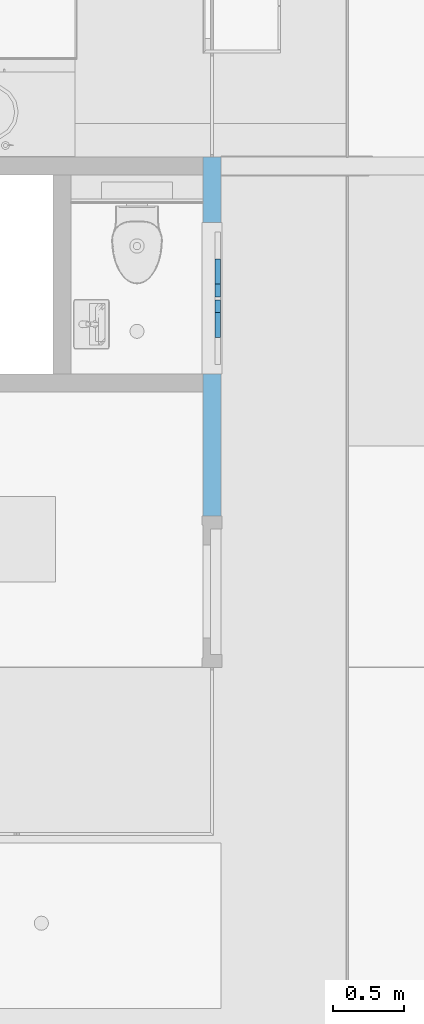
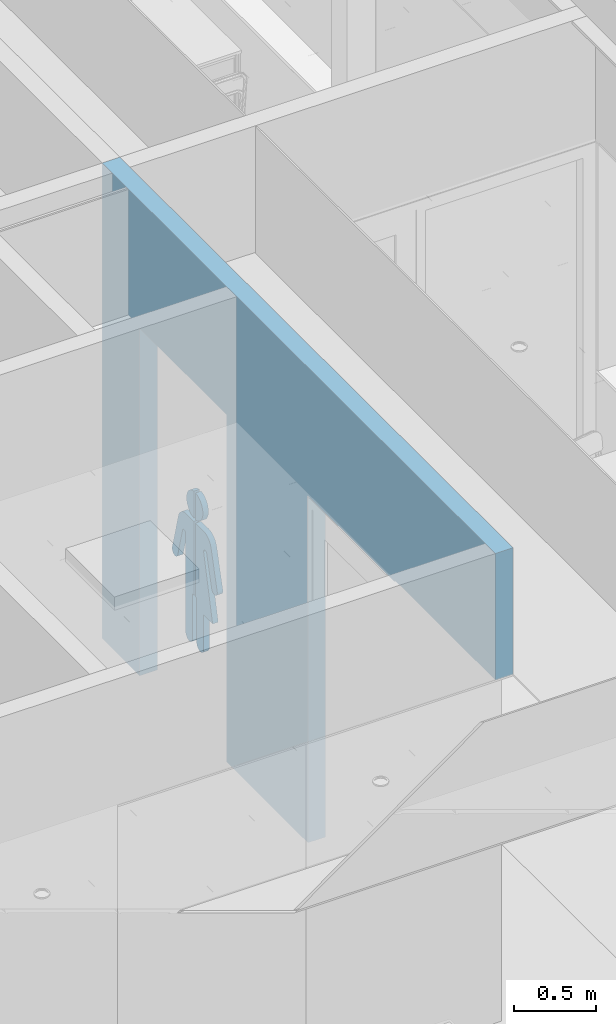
# One storey, part 25 of 260: 1 building element part, 3 openings, 1 element without a shape of its own, plus 1 element that does not belong to this part.
"""IFC2X3 building model written with IfcOpenShell, lengths in millimetres."""

from ifc_helpers import new_model, entity, si_unit, converted_unit, derived_unit, money_unit, direction, frame, origin_with_axes, place, context, subcontext, project, spatial, faceted_brep, material, type_object, element, fill, aggregate, save


model = new_model("IFC2X3")

# Units and contexts
model_context = context("Model", 3, precision=0.01, world=origin_with_axes(), true_north=direction((0.0, 1.0)))
plan_context = context("Plan", 3, precision=0.01, world=origin_with_axes(), true_north=direction((0.0, 1.0)))
body_context = subcontext(model_context, "Body", "Model", "MODEL_VIEW")
ifc_project = project(units=[si_unit("LENGTHUNIT", "METRE", prefix="MILLI"), si_unit("AREAUNIT", "SQUARE_METRE"), si_unit("VOLUMEUNIT", "CUBIC_METRE"), converted_unit("PLANEANGLEUNIT", "DEGREE", entity("IfcPlaneAngleMeasure", 0.0174532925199), si_unit("PLANEANGLEUNIT", "RADIAN"), dimensions=[0, 0, 0, 0, 0, 0, 0]), money_unit("EUR"), converted_unit("TIMEUNIT", "Year", entity("IfcTimeMeasure", 31556926.0), si_unit("TIMEUNIT", "SECOND"), dimensions=[0, 0, 1, 0, 0, 0, 0]), si_unit("MASSUNIT", "GRAM", prefix="KILO"), si_unit("THERMODYNAMICTEMPERATUREUNIT", "DEGREE_CELSIUS"), si_unit("LUMINOUSINTENSITYUNIT", "LUMEN"), si_unit("ENERGYUNIT", "JOULE", prefix="MEGA"), derived_unit("THERMALCONDUCTANCEUNIT", [(si_unit("POWERUNIT", "WATT"), 1), (si_unit("LENGTHUNIT", "METRE"), -1), (si_unit("THERMODYNAMICTEMPERATUREUNIT", "KELVIN"), -1)]), derived_unit("SPECIFICHEATCAPACITYUNIT", [(si_unit("ENERGYUNIT", "JOULE"), 1), (si_unit("MASSUNIT", "GRAM", prefix="KILO"), -1), (si_unit("THERMODYNAMICTEMPERATUREUNIT", "KELVIN"), -1)]), derived_unit("MASSDENSITYUNIT", [(si_unit("MASSUNIT", "GRAM", prefix="KILO"), 1), (si_unit("VOLUMEUNIT", "CUBIC_METRE"), -1)])], contexts=[model_context, plan_context])

# Site, building, storey
site_placement = place(None, origin_with_axes())
site = spatial("IfcSite", under=ifc_project, at=site_placement, Name="Site", CompositionType="ELEMENT")
building_placement = place(site_placement, origin_with_axes())
building = spatial("IfcBuilding", under=site, at=building_placement, Name="Naam gebouw", CompositionType="ELEMENT")
storey_placement = place(building_placement, frame((0.0, 0.0, 3960.0), z_axis=(0.0, 0.0, 1.0), x_axis=(1.0, 0.0, 0.0)))
storey = spatial("IfcBuildingStorey", under=building, at=storey_placement, Name="verdieping", CompositionType="ELEMENT", Elevation=3960.0)

# Wall, openings, door, building element part
ifc_material_1 = material(Name="ALG - LICHTE SCHEIDINGSWAND")
wall_type = type_object("IfcWallType", Name="ALG LSW 125 125", PredefinedType="NOTDEFINED")
wall_placement = place(storey_placement, frame((32075.0, 15290.0, 0.0), z_axis=(0.0, 0.0, 1.0), x_axis=(0.0, 1.0, 0.0)))
wall = element("IfcWall", 1, at=wall_placement, inside=storey, type_object=wall_type, material=ifc_material_1, Name="22_GF 125 ECO DGS/2.75.2A", context=body_context, shape_type="Brep", body=[
    faceted_brep([(2299.0, -125.0, 0.0), (3297.5, -125.0, 0.0), (3297.5, -124.999927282, 2600.0), (4361.5, -124.999927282, 2600.0), (4361.5, -125.0, 0.0), (4822.5, -125.0, 0.0), (4822.5, -125.0, 3560.0), (0.0, -125.0, 3560.0), (0.000133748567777, -124.999927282, 2612.0), (1234.99996939, -124.999927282, 2612.0), (1235.0, -124.999927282, 2600.0), (2299.0, -124.999927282, 2600.0), (2299.0, 0.0, 0.0), (3297.5, 0.0, 0.0), (3297.5, 0.0, 2600.0), (4361.5, 0.0, 2600.0), (4361.5, 0.0, 0.0), (4822.5, 0.0, 0.0), (4822.5, 0.0, 3560.0), (0.0, 0.0, 3560.0), (0.000133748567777, 0.0, 2612.0), (1234.99996939, 0.0, 2612.0), (1235.0, 0.0, 2600.0), (2299.0, 0.0, 2600.0)], [[[0, 1, 2, 3, 4, 5, 6, 7, 8, 9, 10, 11]], [[12, 13, 1, 0]], [[14, 2, 1, 13]], [[15, 3, 2, 14]], [[16, 4, 3, 15]], [[5, 4, 16, 17]], [[17, 18, 6, 5]], [[19, 7, 6, 18]], [[20, 8, 7, 19]], [[9, 8, 20, 21]], [[10, 9, 21, 22]], [[11, 10, 22, 23]], [[0, 11, 23, 12]], [[15, 14, 13, 12, 23, 22, 21, 20, 19, 18, 17, 16]]]),
])
opening_1_placement = place(wall_placement, frame((653.75, 0.0, 0.0), z_axis=(0.0, 0.0, 1.0), x_axis=(1.0, 0.0, 0.0)))
element("IfcOpeningElement", 2, at=opening_1_placement, cuts=wall, Name="31_10.13c", context=body_context, shape_type="Brep", body=[
    faceted_brep([(-403.75, 125.0, 0.0), (581.25, 125.0, 0.0), (581.25, -72.5, 0.0), (-601.25, -72.5, 0.0), (-403.75, 125.0, 2600.0), (581.25, 125.0, 2600.0), (581.25, -72.5, 2600.0), (-601.25, -72.5, 2600.0)], [[[0, 1, 2, 3]], [[4, 5, 1, 0]], [[1, 5, 6, 2]], [[3, 2, 6, 7]], [[0, 3, 7, 4]], [[5, 4, 7, 6]]]),
    faceted_brep([(-653.75, -250.0, 0.0), (-653.75, -250.0, 2600.0), (-653.75, -125.0, 2600.0), (-653.75, -125.0, 0.0), (581.25, -250.0, 0.0), (581.25, -250.0, 2600.0), (581.25, -72.5, 2600.0), (-601.25, -72.5, 2600.0), (-601.25, -72.5, 0.0), (581.25, -72.5, 0.0)], [[[0, 1, 2, 3]], [[0, 4, 5, 1]], [[1, 5, 6, 7, 2]], [[7, 8, 3, 2]], [[4, 0, 3, 8, 9]], [[5, 4, 9, 6]], [[7, 6, 9, 8]]]),
])
opening_2_placement = place(wall_placement, frame((1767.0, 0.0, 0.0), z_axis=(0.0, 0.0, 1.0), x_axis=(1.0, 0.0, 0.0)))
element("IfcOpeningElement", 3, at=opening_2_placement, cuts=wall, Name="32_02.01", context=body_context, shape_type="Brep", body=[
    faceted_brep([(532.0, -125.0, 2600.0), (532.0, -125.0, 0.0), (532.0, 257.0, 0.0), (532.0, 257.0, 2600.0), (-532.0, -125.0, 2600.0), (-532.0, -125.0, 0.0), (-532.0, 257.0, 0.0), (-532.0, 257.0, 2600.0)], [[[0, 1, 2, 3]], [[0, 4, 5, 1]], [[1, 5, 6, 2]], [[3, 2, 6, 7]], [[4, 0, 3, 7]], [[5, 4, 7, 6]]]),
])
opening_3_placement = place(wall_placement, frame((3829.5, 0.0, 0.0), z_axis=(0.0, 0.0, 1.0), x_axis=(1.0, 0.0, 0.0)))
opening_3 = element("IfcOpeningElement", 4, at=opening_3_placement, cuts=wall, Name="32_01.05", context=body_context, shape_type="Brep", body=[
    faceted_brep([(532.0, -257.0, 2600.0), (532.0, -257.0, 0.0), (532.0, 125.0, 0.0), (532.0, 125.0, 2600.0), (-532.0, -257.0, 2600.0), (-532.0, -257.0, 0.0), (-532.0, 125.0, 0.0), (-532.0, 125.0, 2600.0)], [[[0, 1, 2, 3]], [[0, 4, 5, 1]], [[1, 5, 6, 2]], [[3, 2, 6, 7]], [[4, 0, 3, 7]], [[5, 4, 7, 6]]]),
])
door_style = type_object("IfcDoorStyle", Name="D1 25", ConstructionType="NOTDEFINED", OperationType="SINGLE_SWING_LEFT", ParameterTakesPrecedence=False, Sizeable=False)
door_placement = place(opening_3_placement, frame((532.0, 0.0, 0.0), z_axis=(0.0, 0.0, 1.0), x_axis=(-1.0, 0.0, 0.0)))
door = element("IfcDoor", 5, at=door_placement, inside=storey, type_object=door_style, Name="32_01.05", ObjectType="DOOR", OverallHeight=2600.0, OverallWidth=1064.0)
fill(opening_3, door)
ifc_material_2 = material(Name="Glas sticker")
building_element_part_placement = place(door_placement, origin_with_axes())
building_element_part = element("IfcBuildingElementPart", 6, at=building_element_part_placement, material=ifc_material_2, Name="Glas sticker", context=body_context, shape_type="Brep", body=[
    faceted_brep([(330.41108363, 122.0, 1368.954906), (255.37447873, 122.0, 1088.44895872), (255.37447873, 82.0, 1088.44895872), (330.41108363, 82.0, 1368.954906), (336.050845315, 122.0, 1385.59511164), (344.837341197, 122.0, 1400.83915132), (356.133042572, 122.0, 1414.32329606), (369.594735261, 122.0, 1425.63783693), (384.813392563, 122.0, 1434.43898735), (401.326603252, 122.0, 1440.4593288), (418.632621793, 122.0, 1443.51593625), (427.419117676, 122.0, 1443.51593625), (521.956979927, 122.0, 1443.51593625), (521.956979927, 122.0, 890.229090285), (506.89247812, 122.0, 890.229090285), (506.89247812, 122.0, 563.286854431), (507.306718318, 122.0, 557.54197595), (506.478237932, 122.0, 550.06099695), (504.365448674, 122.0, 542.8377749), (501.032546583, 122.0, 536.091783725), (496.580800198, 122.0, 530.027996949), (491.145473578, 122.0, 524.830659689), (484.891716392, 122.0, 520.657690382), (478.009545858, 122.0, 517.635882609), (470.708073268, 122.0, 515.857052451), (463.209150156, 122.0, 515.375248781), (455.740627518, 122.0, 516.205110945), (448.529432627, 122.0, 518.321424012), (441.794673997, 122.0, 521.659884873), (435.74098386, 122.0, 526.119056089), (430.552300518, 122.0, 531.563447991), (426.386279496, 122.0, 537.827635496), (423.369503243, 122.0, 544.721284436), (421.593634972, 122.0, 552.034934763), (421.112633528, 122.0, 559.546364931), (421.526873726, 122.0, 563.286854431), (421.526873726, 122.0, 1292.61952191), (421.304927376, 122.0, 1294.3081838), (420.282288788, 122.0, 1297.5569887), (418.711976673, 122.0, 1300.57856146), (416.641704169, 122.0, 1303.2810931), (414.134375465, 122.0, 1305.58246859), (411.266174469, 122.0, 1307.41276178), (408.124250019, 122.0, 1308.71636013), (404.804067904, 122.0, 1309.45365449), (401.406510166, 122.0, 1309.60224253), (398.034809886, 122.0, 1309.15760948), (394.791414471, 122.0, 1308.13326528), (391.774872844, 122.0, 1306.56033414), (389.076841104, 122.0, 1304.48660874), (386.779297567, 122.0, 1301.97509819), (384.952051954, 122.0, 1299.10211348), (383.650624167, 122.0, 1295.95494878), (382.988163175, 122.0, 1292.61952191), (324.076421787, 122.0, 1073.19870026), (323.277785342, 122.0, 1070.21469297), (320.677741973, 122.0, 1064.63143877), (317.149291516, 122.0, 1059.58525256), (312.799644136, 122.0, 1055.22946015), (307.760961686, 122.0, 1051.6964101), (302.186341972, 122.0, 1049.09345233), (296.245166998, 122.0, 1047.49967641), (290.117956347, 122.0, 1046.96350842), (283.990882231, 122.0, 1047.50123953), (278.050112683, 122.0, 1049.09653107), (272.476154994, 122.0, 1051.70091091), (267.438371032, 122.0, 1055.23524628), (263.089831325, 122.0, 1059.59214821), (259.562664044, 122.0, 1064.63923441), (256.964040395, 122.0, 1070.22315174), (255.372918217, 122.0, 1076.17423568), (254.837642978, 122.0, 1082.31166558), (254.837642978, 82.0, 1082.31166558), (255.372918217, 82.0, 1076.17423568), (256.964040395, 82.0, 1070.22315174), (259.562664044, 82.0, 1064.63923441), (263.089831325, 82.0, 1059.59214821), (267.438371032, 82.0, 1055.23524628), (272.476154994, 82.0, 1051.70091091), (278.050112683, 82.0, 1049.09653107), (283.990882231, 82.0, 1047.50123953), (290.117956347, 82.0, 1046.96350842), (296.245166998, 82.0, 1047.49967641), (302.186341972, 82.0, 1049.09345233), (307.760961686, 82.0, 1051.6964101), (312.799644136, 82.0, 1055.22946015), (317.149291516, 82.0, 1059.58525256), (320.677741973, 82.0, 1064.63143877), (323.277785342, 82.0, 1070.21469297), (324.076421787, 82.0, 1073.19870026), (382.988163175, 82.0, 1292.61952191), (383.650624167, 82.0, 1295.95494878), (384.952051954, 82.0, 1299.10211348), (386.779297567, 82.0, 1301.97509819), (389.076841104, 82.0, 1304.48660874), (391.774872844, 82.0, 1306.56033414), (394.791414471, 82.0, 1308.13326528), (398.034809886, 82.0, 1309.15760948), (401.406510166, 82.0, 1309.60224253), (404.804067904, 82.0, 1309.45365449), (408.124250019, 82.0, 1308.71636013), (411.266174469, 82.0, 1307.41276178), (414.134375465, 82.0, 1305.58246859), (416.641704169, 82.0, 1303.2810931), (418.711976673, 82.0, 1300.57856146), (420.282288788, 82.0, 1297.5569887), (421.304927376, 82.0, 1294.3081838), (421.526873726, 82.0, 1292.61952191), (421.526873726, 82.0, 563.286854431), (421.112633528, 82.0, 559.546364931), (421.593634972, 82.0, 552.034934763), (423.369503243, 82.0, 544.721284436), (426.386279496, 82.0, 537.827635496), (430.552300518, 82.0, 531.563447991), (435.74098386, 82.0, 526.119056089), (441.794673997, 82.0, 521.659884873), (448.529432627, 82.0, 518.321424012), (455.740627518, 82.0, 516.205110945), (463.209150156, 82.0, 515.375248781), (470.708073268, 82.0, 515.857052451), (478.009545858, 82.0, 517.635882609), (484.891716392, 82.0, 520.657690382), (491.145473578, 82.0, 524.830659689), (496.580800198, 82.0, 530.027996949), (501.032546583, 82.0, 536.091783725), (504.365448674, 82.0, 542.8377749), (506.478237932, 82.0, 550.06099695), (507.306718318, 82.0, 557.54197595), (506.89247812, 82.0, 563.286854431), (506.89247812, 82.0, 890.229090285), (521.956979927, 82.0, 890.229090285), (521.956979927, 82.0, 1443.51593625), (427.419117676, 82.0, 1443.51593625), (418.632621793, 82.0, 1443.51593625), (401.326603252, 82.0, 1440.4593288), (384.813392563, 82.0, 1434.43898735), (369.594735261, 82.0, 1425.63783693), (356.133042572, 82.0, 1414.32329606), (344.837341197, 82.0, 1400.83915132), (336.050845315, 82.0, 1385.59511164)], [[[0, 1, 2, 3]], [[0, 4, 5, 6, 7, 8, 9, 10, 11, 12, 13, 14, 15, 16, 17, 18, 19, 20, 21, 22, 23, 24, 25, 26, 27, 28, 29, 30, 31, 32, 33, 34, 35, 36, 37, 38, 39, 40, 41, 42, 43, 44, 45, 46, 47, 48, 49, 50, 51, 52, 53, 54, 55, 56, 57, 58, 59, 60, 61, 62, 63, 64, 65, 66, 67, 68, 69, 70, 71, 1]], [[1, 71, 72, 2]], [[3, 2, 72, 73, 74, 75, 76, 77, 78, 79, 80, 81, 82, 83, 84, 85, 86, 87, 88, 89, 90, 91, 92, 93, 94, 95, 96, 97, 98, 99, 100, 101, 102, 103, 104, 105, 106, 107, 108, 109, 110, 111, 112, 113, 114, 115, 116, 117, 118, 119, 120, 121, 122, 123, 124, 125, 126, 127, 128, 129, 130, 131, 132, 133, 134, 135, 136, 137, 138, 139]], [[4, 0, 3, 139]], [[5, 4, 139, 138]], [[6, 5, 138, 137]], [[7, 6, 137, 136]], [[8, 7, 136, 135]], [[9, 8, 135, 134]], [[10, 9, 134, 133]], [[11, 10, 133, 132]], [[12, 11, 132, 131]], [[13, 12, 131, 130]], [[14, 13, 130, 129]], [[15, 14, 129, 128]], [[16, 15, 128, 127]], [[17, 16, 127, 126]], [[18, 17, 126, 125]], [[19, 18, 125, 124]], [[20, 19, 124, 123]], [[21, 20, 123, 122]], [[22, 21, 122, 121]], [[23, 22, 121, 120]], [[24, 23, 120, 119]], [[25, 24, 119, 118]], [[26, 25, 118, 117]], [[27, 26, 117, 116]], [[28, 27, 116, 115]], [[29, 28, 115, 114]], [[30, 29, 114, 113]], [[31, 30, 113, 112]], [[32, 31, 112, 111]], [[33, 32, 111, 110]], [[34, 33, 110, 109]], [[35, 34, 109, 108]], [[36, 35, 108, 107]], [[37, 36, 107, 106]], [[38, 37, 106, 105]], [[39, 38, 105, 104]], [[40, 39, 104, 103]], [[41, 40, 103, 102]], [[42, 41, 102, 101]], [[43, 42, 101, 100]], [[44, 43, 100, 99]], [[45, 44, 99, 98]], [[46, 45, 98, 97]], [[47, 46, 97, 96]], [[48, 47, 96, 95]], [[49, 48, 95, 94]], [[50, 49, 94, 93]], [[51, 50, 93, 92]], [[52, 51, 92, 91]], [[53, 52, 91, 90]], [[54, 53, 90, 89]], [[55, 54, 89, 88]], [[56, 55, 88, 87]], [[57, 56, 87, 86]], [[58, 57, 86, 85]], [[59, 58, 85, 84]], [[60, 59, 84, 83]], [[61, 60, 83, 82]], [[62, 61, 82, 81]], [[63, 62, 81, 80]], [[64, 63, 80, 79]], [[65, 64, 79, 78]], [[66, 65, 78, 77]], [[67, 66, 77, 76]], [[68, 67, 76, 75]], [[69, 68, 75, 74]], [[70, 69, 74, 73]], [[71, 70, 73, 72]]]),
    faceted_brep([(542.043020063, 122.0, 890.229090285), (557.10752188, 122.0, 890.229090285), (557.10752188, 82.0, 890.229090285), (542.043020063, 82.0, 890.229090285), (542.043020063, 122.0, 1443.51593625), (636.580882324, 122.0, 1443.51593625), (654.087001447, 122.0, 1442.36606156), (671.061208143, 122.0, 1437.81025123), (686.98774758, 122.0, 1430.37119778), (701.382699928, 122.0, 1420.27493311), (713.808681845, 122.0, 1407.82822709), (723.888136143, 122.0, 1393.40926659), (731.31480372, 122.0, 1377.45616444), (733.58891637, 122.0, 1368.954906), (807.831520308, 122.0, 1091.41563724), (808.62708117, 122.0, 1088.44009521), (809.162355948, 122.0, 1082.30266527), (808.625519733, 122.0, 1076.16537218), (807.032884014, 122.0, 1070.21469446), (804.432840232, 122.0, 1064.63144045), (800.904389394, 122.0, 1059.58525451), (796.554741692, 122.0, 1055.22946244), (791.516058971, 122.0, 1051.69641276), (785.941439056, 122.0, 1049.09345542), (780.000263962, 122.0, 1047.49967995), (773.873053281, 122.0, 1046.96351241), (767.745979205, 122.0, 1047.50124399), (761.805209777, 122.0, 1049.09653598), (756.231252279, 122.0, 1051.70091623), (751.193468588, 122.0, 1055.235252), (746.844929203, 122.0, 1059.59215425), (743.317762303, 122.0, 1064.63924071), (740.719139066, 122.0, 1070.22315824), (739.923578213, 122.0, 1073.19870027), (681.227842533, 122.0, 1292.61952191), (681.003554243, 122.0, 1294.42542469), (679.935653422, 122.0, 1297.90433437), (678.280875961, 122.0, 1301.14464328), (676.089501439, 122.0, 1304.04789628), (673.428113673, 122.0, 1306.52587948), (670.377577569, 122.0, 1308.50330061), (667.030582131, 122.0, 1309.92007677), (663.488824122, 122.0, 1310.73315989), (659.859918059, 122.0, 1310.91784487), (656.254126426, 122.0, 1310.46852015), (652.781009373, 122.0, 1309.39883823), (649.546095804, 122.0, 1307.74130085), (646.647676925, 122.0, 1305.54627145), (644.173819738, 122.0, 1302.8804449), (642.199691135, 122.0, 1299.82482097), (640.785274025, 122.0, 1296.47224326), (640.013455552, 122.0, 1292.61952191), (751.866038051, 122.0, 814.780876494), (642.473126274, 122.0, 814.780876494), (642.473126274, 122.0, 563.286854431), (642.887366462, 122.0, 557.54197595), (642.058886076, 122.0, 550.06099695), (639.946096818, 122.0, 542.8377749), (636.613194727, 122.0, 536.091783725), (632.161448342, 122.0, 530.027996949), (626.726121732, 122.0, 524.830659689), (620.472364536, 122.0, 520.657690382), (613.590194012, 122.0, 517.635882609), (606.288721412, 122.0, 515.857052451), (598.78979831, 122.0, 515.375248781), (591.321275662, 122.0, 516.205110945), (584.110080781, 122.0, 518.321424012), (577.375322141, 122.0, 521.659884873), (571.321632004, 122.0, 526.119056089), (566.132948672, 122.0, 531.563447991), (561.96692765, 122.0, 537.827635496), (558.950151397, 122.0, 544.721284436), (557.174283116, 122.0, 552.034934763), (556.693281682, 122.0, 559.546364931), (557.10752188, 122.0, 563.286854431), (557.10752188, 82.0, 563.286854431), (556.693281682, 82.0, 559.546364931), (557.174283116, 82.0, 552.034934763), (558.950151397, 82.0, 544.721284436), (561.96692765, 82.0, 537.827635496), (566.132948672, 82.0, 531.563447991), (571.321632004, 82.0, 526.119056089), (577.375322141, 82.0, 521.659884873), (584.110080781, 82.0, 518.321424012), (591.321275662, 82.0, 516.205110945), (598.78979831, 82.0, 515.375248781), (606.288721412, 82.0, 515.857052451), (613.590194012, 82.0, 517.635882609), (620.472364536, 82.0, 520.657690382), (626.726121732, 82.0, 524.830659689), (632.161448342, 82.0, 530.027996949), (636.613194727, 82.0, 536.091783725), (639.946096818, 82.0, 542.8377749), (642.058886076, 82.0, 550.06099695), (642.887366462, 82.0, 557.54197595), (642.473126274, 82.0, 563.286854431), (642.473126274, 82.0, 814.780876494), (751.866038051, 82.0, 814.780876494), (640.013455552, 82.0, 1292.61952191), (640.785274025, 82.0, 1296.47224326), (642.199691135, 82.0, 1299.82482097), (644.173819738, 82.0, 1302.8804449), (646.647676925, 82.0, 1305.54627145), (649.546095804, 82.0, 1307.74130085), (652.781009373, 82.0, 1309.39883823), (656.254126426, 82.0, 1310.46852015), (659.859918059, 82.0, 1310.91784487), (663.488824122, 82.0, 1310.73315989), (667.030582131, 82.0, 1309.92007677), (670.377577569, 82.0, 1308.50330061), (673.428113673, 82.0, 1306.52587948), (676.089501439, 82.0, 1304.04789628), (678.280875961, 82.0, 1301.14464328), (679.935653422, 82.0, 1297.90433437), (681.003554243, 82.0, 1294.42542469), (681.227842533, 82.0, 1292.61952191), (739.923578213, 82.0, 1073.19870027), (740.719139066, 82.0, 1070.22315824), (743.317762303, 82.0, 1064.63924071), (746.844929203, 82.0, 1059.59215425), (751.193468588, 82.0, 1055.235252), (756.231252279, 82.0, 1051.70091623), (761.805209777, 82.0, 1049.09653598), (767.745979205, 82.0, 1047.50124399), (773.873053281, 82.0, 1046.96351241), (780.000263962, 82.0, 1047.49967995), (785.941439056, 82.0, 1049.09345542), (791.516058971, 82.0, 1051.69641276), (796.554741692, 82.0, 1055.22946244), (800.904389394, 82.0, 1059.58525451), (804.432840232, 82.0, 1064.63144045), (807.032884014, 82.0, 1070.21469446), (808.625519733, 82.0, 1076.16537218), (809.162355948, 82.0, 1082.30266527), (808.62708117, 82.0, 1088.44009521), (807.831520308, 82.0, 1091.41563724), (733.58891637, 82.0, 1368.954906), (731.31480372, 82.0, 1377.45616444), (723.888136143, 82.0, 1393.40926659), (713.808681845, 82.0, 1407.82822709), (701.382699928, 82.0, 1420.27493311), (686.98774758, 82.0, 1430.37119778), (671.061208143, 82.0, 1437.81025123), (654.087001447, 82.0, 1442.36606156), (636.580882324, 82.0, 1443.51593625), (542.043020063, 82.0, 1443.51593625)], [[[0, 1, 2, 3]], [[0, 4, 5, 6, 7, 8, 9, 10, 11, 12, 13, 14, 15, 16, 17, 18, 19, 20, 21, 22, 23, 24, 25, 26, 27, 28, 29, 30, 31, 32, 33, 34, 35, 36, 37, 38, 39, 40, 41, 42, 43, 44, 45, 46, 47, 48, 49, 50, 51, 52, 53, 54, 55, 56, 57, 58, 59, 60, 61, 62, 63, 64, 65, 66, 67, 68, 69, 70, 71, 72, 73, 74, 1]], [[1, 74, 75, 2]], [[3, 2, 75, 76, 77, 78, 79, 80, 81, 82, 83, 84, 85, 86, 87, 88, 89, 90, 91, 92, 93, 94, 95, 96, 97, 98, 99, 100, 101, 102, 103, 104, 105, 106, 107, 108, 109, 110, 111, 112, 113, 114, 115, 116, 117, 118, 119, 120, 121, 122, 123, 124, 125, 126, 127, 128, 129, 130, 131, 132, 133, 134, 135, 136, 137, 138, 139, 140, 141, 142, 143, 144, 145]], [[4, 0, 3, 145]], [[5, 4, 145, 144]], [[6, 5, 144, 143]], [[7, 6, 143, 142]], [[8, 7, 142, 141]], [[9, 8, 141, 140]], [[10, 9, 140, 139]], [[11, 10, 139, 138]], [[12, 11, 138, 137]], [[13, 12, 137, 136]], [[14, 13, 136, 135]], [[15, 14, 135, 134]], [[16, 15, 134, 133]], [[17, 16, 133, 132]], [[18, 17, 132, 131]], [[19, 18, 131, 130]], [[20, 19, 130, 129]], [[21, 20, 129, 128]], [[22, 21, 128, 127]], [[23, 22, 127, 126]], [[24, 23, 126, 125]], [[25, 24, 125, 124]], [[26, 25, 124, 123]], [[27, 26, 123, 122]], [[28, 27, 122, 121]], [[29, 28, 121, 120]], [[30, 29, 120, 119]], [[31, 30, 119, 118]], [[32, 31, 118, 117]], [[33, 32, 117, 116]], [[34, 33, 116, 115]], [[35, 34, 115, 114]], [[36, 35, 114, 113]], [[37, 36, 113, 112]], [[38, 37, 112, 111]], [[39, 38, 111, 110]], [[40, 39, 110, 109]], [[41, 40, 109, 108]], [[42, 41, 108, 107]], [[43, 42, 107, 106]], [[44, 43, 106, 105]], [[45, 44, 105, 104]], [[46, 45, 104, 103]], [[47, 46, 103, 102]], [[48, 47, 102, 101]], [[49, 48, 101, 100]], [[50, 49, 100, 99]], [[51, 50, 99, 98]], [[52, 51, 98, 97]], [[53, 52, 97, 96]], [[54, 53, 96, 95]], [[55, 54, 95, 94]], [[56, 55, 94, 93]], [[57, 56, 93, 92]], [[58, 57, 92, 91]], [[59, 58, 91, 90]], [[60, 59, 90, 89]], [[61, 60, 89, 88]], [[62, 61, 88, 87]], [[63, 62, 87, 86]], [[64, 63, 86, 85]], [[65, 64, 85, 84]], [[66, 65, 84, 83]], [[67, 66, 83, 82]], [[68, 67, 82, 81]], [[69, 68, 81, 80]], [[70, 69, 80, 79]], [[71, 70, 79, 78]], [[72, 71, 78, 77]], [[73, 72, 77, 76]], [[74, 73, 76, 75]]]),
    faceted_brep([(542.043020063, 122.0, 1669.35630499), (542.043020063, 122.0, 1469.16959144), (542.043020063, 82.0, 1469.16959144), (542.043020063, 82.0, 1669.35630499), (558.092514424, 122.0, 1666.80395031), (574.605725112, 122.0, 1660.78360886), (589.824382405, 122.0, 1651.98245845), (603.286075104, 122.0, 1640.66791757), (614.581776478, 122.0, 1627.18377283), (623.368272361, 122.0, 1611.93973315), (629.378589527, 122.0, 1595.39898096), (632.430107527, 122.0, 1578.06409863), (632.430107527, 122.0, 1569.26294821), (631.499726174, 122.0, 1553.01203348), (627.170858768, 122.0, 1535.9521583), (619.950272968, 122.0, 1519.90441461), (610.057362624, 122.0, 1505.35640498), (597.792718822, 122.0, 1492.75016333), (583.528996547, 122.0, 1482.46872393), (567.699591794, 122.0, 1474.82448312), (550.785473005, 122.0, 1470.04970729), (550.785473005, 82.0, 1470.04970729), (567.699591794, 82.0, 1474.82448312), (583.528996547, 82.0, 1482.46872393), (597.792718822, 82.0, 1492.75016333), (610.057362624, 82.0, 1505.35640498), (619.950272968, 82.0, 1519.90441461), (627.170858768, 82.0, 1535.9521583), (631.499726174, 82.0, 1553.01203348), (632.430107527, 82.0, 1569.26294821), (632.430107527, 82.0, 1578.06409863), (629.378589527, 82.0, 1595.39898096), (623.368272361, 82.0, 1611.93973315), (614.581776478, 82.0, 1627.18377283), (603.286075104, 82.0, 1640.66791757), (589.824382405, 82.0, 1651.98245845), (574.605725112, 82.0, 1660.78360886), (558.092514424, 82.0, 1666.80395031)], [[[0, 1, 2, 3]], [[0, 4, 5, 6, 7, 8, 9, 10, 11, 12, 13, 14, 15, 16, 17, 18, 19, 20, 1]], [[1, 20, 21, 2]], [[3, 2, 21, 22, 23, 24, 25, 26, 27, 28, 29, 30, 31, 32, 33, 34, 35, 36, 37]], [[4, 0, 3, 37]], [[5, 4, 37, 36]], [[6, 5, 36, 35]], [[7, 6, 35, 34]], [[8, 7, 34, 33]], [[9, 8, 33, 32]], [[10, 9, 32, 31]], [[11, 10, 31, 30]], [[12, 11, 30, 29]], [[13, 12, 29, 28]], [[14, 13, 28, 27]], [[15, 14, 27, 26]], [[16, 15, 26, 25]], [[17, 16, 25, 24]], [[18, 17, 24, 23]], [[19, 18, 23, 22]], [[20, 19, 22, 21]]]),
    faceted_brep([(521.956979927, 122.0, 1669.35630499), (513.214526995, 122.0, 1668.47618914), (513.214526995, 82.0, 1668.47618914), (521.956979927, 82.0, 1669.35630499), (521.956979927, 122.0, 1469.16959144), (505.907485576, 122.0, 1471.72194611), (489.394274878, 122.0, 1477.74228756), (474.175617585, 122.0, 1486.54343798), (460.713924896, 122.0, 1497.85797885), (449.418223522, 122.0, 1511.34212359), (440.631727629, 122.0, 1526.58616327), (434.621410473, 122.0, 1543.12691547), (431.569892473, 122.0, 1560.4617978), (431.569892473, 122.0, 1569.26294821), (432.500273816, 122.0, 1585.51386294), (436.829141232, 122.0, 1602.57373813), (444.049727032, 122.0, 1618.62148182), (453.942637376, 122.0, 1633.16949145), (466.207281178, 122.0, 1645.77573309), (480.471003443, 122.0, 1656.05717249), (496.300408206, 122.0, 1663.7014133), (496.300408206, 82.0, 1663.7014133), (480.471003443, 82.0, 1656.05717249), (466.207281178, 82.0, 1645.77573309), (453.942637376, 82.0, 1633.16949145), (444.049727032, 82.0, 1618.62148182), (436.829141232, 82.0, 1602.57373813), (432.500273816, 82.0, 1585.51386294), (431.569892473, 82.0, 1569.26294821), (431.569892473, 82.0, 1560.4617978), (434.621410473, 82.0, 1543.12691547), (440.631727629, 82.0, 1526.58616327), (449.418223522, 82.0, 1511.34212359), (460.713924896, 82.0, 1497.85797885), (474.175617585, 82.0, 1486.54343798), (489.394274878, 82.0, 1477.74228756), (505.907485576, 82.0, 1471.72194611), (521.956979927, 82.0, 1469.16959144)], [[[0, 1, 2, 3]], [[0, 4, 5, 6, 7, 8, 9, 10, 11, 12, 13, 14, 15, 16, 17, 18, 19, 20, 1]], [[1, 20, 21, 2]], [[3, 2, 21, 22, 23, 24, 25, 26, 27, 28, 29, 30, 31, 32, 33, 34, 35, 36, 37]], [[4, 0, 3, 37]], [[5, 4, 37, 36]], [[6, 5, 36, 35]], [[7, 6, 35, 34]], [[8, 7, 34, 33]], [[9, 8, 33, 32]], [[10, 9, 32, 31]], [[11, 10, 31, 30]], [[12, 11, 30, 29]], [[13, 12, 29, 28]], [[14, 13, 28, 27]], [[15, 14, 27, 26]], [[16, 15, 26, 25]], [[17, 16, 25, 24]], [[18, 17, 24, 23]], [[19, 18, 23, 22]], [[20, 19, 22, 21]]]),
])
aggregate(door, [building_element_part])

save(model, "model.ifc")
